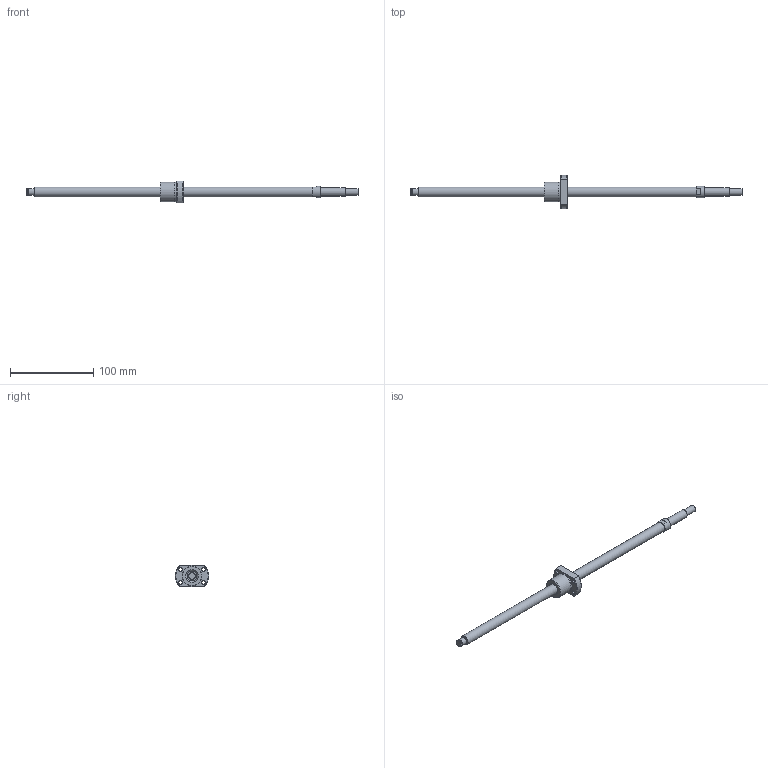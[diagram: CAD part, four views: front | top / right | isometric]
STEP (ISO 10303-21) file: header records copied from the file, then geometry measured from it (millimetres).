
FILE_DESCRIPTION(/* description */ ('STEP AP214'),/* implementation_level */ '2;1');
FILE_NAME(/* name */ 'NSGF1202Z-331R400C3-0-T-S-T-B-(151.5-S)',/* time_stamp */ '2026-08-24T20:17:39+02:00',/* author */ ('License CC BY-ND 4.0'),/* organization */ ('CADENAS'),/* preprocessor_version */ 'ST-DEVELOPER v20',/* originating_system */ 'PARTsolutions',/* authorisation */ ' ');
FILE_SCHEMA (('AUTOMOTIVE_DESIGN {1 0 10303 214 3 1 1}'));
Length unit declared in the file: millimetre
Products named in the file (3): NSGF1202Z-331R400C3-0-T-S-T-B-(151.5-S); NSG1202Z-331R40028_(T-S_T-B_2)-2; NSGF1202Z-1
Assembly tree (2 placements, depth 2):
  NSGF1202Z-331R400C3-0-T-S-T-B-(151.5-S)
    NSG1202Z-331R40028_(T-S_T-B_2)-2
    NSGF1202Z-1
Bounding box: 400 x 39.88 x 26 mm (x, y, z)
Volume: 55265.1 mm3; surface area: 20478.6 mm2
Topology: 2 solids, 2 shells, 47 faces, 99 edges, 64 vertices
Faces by surface type: plane 20, cylinder 17, cone 8, torus 2
Full cylindrical faces by diameter (mm): 4.5 x4, 7.6 x1, 8 x3, 10 x1, 12 x2, 14 x1, 17 x1, 23.7 x1, 24 x1
Entity records: 1235 total; most frequent: DIRECTION 214, CARTESIAN_POINT 208, ORIENTED_EDGE 148, AXIS2_PLACEMENT_3D 98, EDGE_LOOP 86, FACE_BOUND 86, EDGE_CURVE 74, VERTEX_POINT 60
